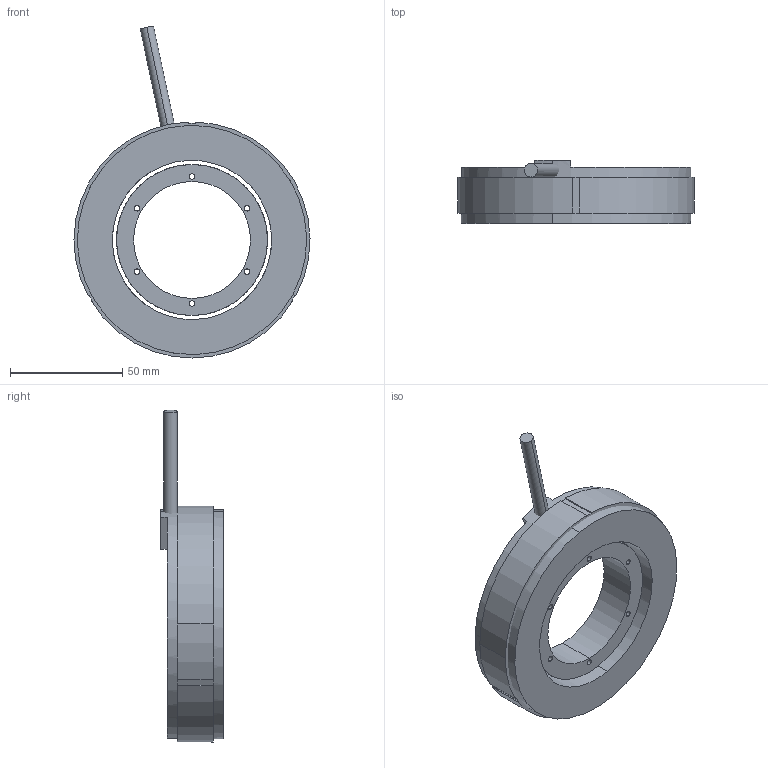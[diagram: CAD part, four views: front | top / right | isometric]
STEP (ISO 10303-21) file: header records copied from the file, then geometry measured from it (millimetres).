
FILE_DESCRIPTION (( 'STEP AP203' ), '1' );
FILE_NAME ('TMXSL105-25 KIT 3D.STEP', '2021-06-21T02:22:48', ( '' ), ( '' ), 'SwSTEP 2.0', 'SolidWorks 2021', '' );
FILE_SCHEMA (( 'CONFIG_CONTROL_DESIGN' ));
Length unit declared in the file: millimetre
Products named in the file (1): TMXSL105-25 KIT 3D
Bounding box: 104.99 x 28 x 147.69 mm (x, y, z)
Volume: 152333.3 mm3; surface area: 46450.1 mm2
Topology: 4 solids, 4 shells, 276 faces, 703 edges, 454 vertices
Faces by surface type: plane 210, cylinder 66
Entity records: 8466 total; most frequent: DIRECTION 1513, CARTESIAN_POINT 1434, ORIENTED_EDGE 1406, EDGE_CURVE 703, AXIS2_PLACEMENT_3D 533, VERTEX_POINT 454, LINE 447, VECTOR 447
